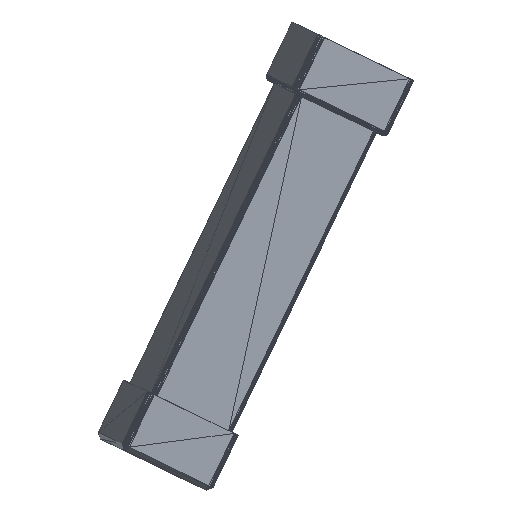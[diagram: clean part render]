
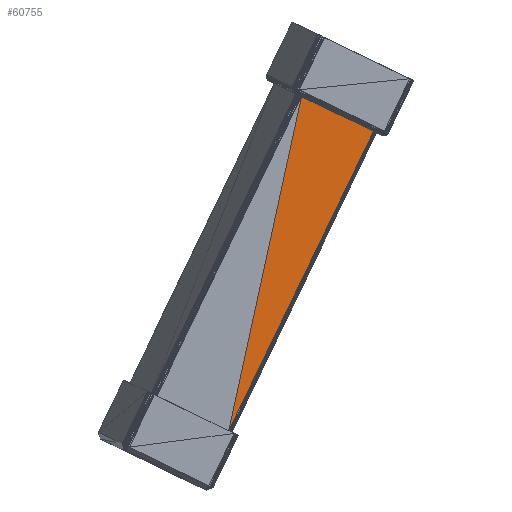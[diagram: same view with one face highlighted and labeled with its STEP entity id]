
A CAD part, top view. The second image highlights one B-rep face of the part: STEP entity #60755.
In plain terms, the highlighted planar face has unit normal (0.258, -0.124, 0.958).
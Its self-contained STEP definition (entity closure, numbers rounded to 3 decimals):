
#12003 = VERTEX_POINT('',#12004);
#12004 = CARTESIAN_POINT('',(33.381,-44.297,
    28.195));
#13298 = PLANE('',#13299);
#13299 = AXIS2_PLACEMENT_3D('',#13300,#13301,#13302);
#13300 = CARTESIAN_POINT('',(2.184,-29.225,
    40.305));
#13301 = DIRECTION('',(-0.435,-0.901,
    0.001));
#13302 = DIRECTION('',(-0.901,0.435,0.));
#14714 = VERTEX_POINT('',#14715);
#14715 = CARTESIAN_POINT('',(4.451,-30.322,
    37.782));
#14741 = EDGE_CURVE('',#14714,#12003,#14742,.T.);
#14742 = SURFACE_CURVE('',#14743,(#14747,#14754),.PCURVE_S1.);
#14743 = LINE('',#14744,#14745);
#14744 = CARTESIAN_POINT('',(4.451,-30.322,
    37.782));
#14745 = VECTOR('',#14746,1.);
#14746 = DIRECTION('',(0.863,-0.417,-0.286));
#14747 = PCURVE('',#13298,#14748);
#14748 = DEFINITIONAL_REPRESENTATION('',(#14749),#14753);
#14749 = LINE('',#14750,#14751);
#14750 = CARTESIAN_POINT('',(-2.519,2.523));
#14751 = VECTOR('',#14752,1.);
#14752 = DIRECTION('',(-0.958,0.286));
#14753 = ( GEOMETRIC_REPRESENTATION_CONTEXT(2) 
PARAMETRIC_REPRESENTATION_CONTEXT() REPRESENTATION_CONTEXT('2D SPACE',''
  ) );
#14754 = PCURVE('',#14755,#14760);
#14755 = PLANE('',#14756);
#14756 = AXIS2_PLACEMENT_3D('',#14757,#14758,#14759);
#14757 = CARTESIAN_POINT('',(-24.87,-164.956,
    28.297));
#14758 = DIRECTION('',(0.258,-0.124,0.958));
#14759 = DIRECTION('',(0.966,0.,-0.26
    ));
#14760 = DEFINITIONAL_REPRESENTATION('',(#14761),#14765);
#14761 = LINE('',#14762,#14763);
#14762 = CARTESIAN_POINT('',(25.85,135.676));
#14763 = VECTOR('',#14764,1.);
#14764 = DIRECTION('',(0.908,-0.42));
#14765 = ( GEOMETRIC_REPRESENTATION_CONTEXT(2) 
PARAMETRIC_REPRESENTATION_CONTEXT() REPRESENTATION_CONTEXT('2D SPACE',''
  ) );
#58893 = VERTEX_POINT('',#58894);
#58894 = CARTESIAN_POINT('',(-24.87,-164.956,
    28.297));
#58908 = PLANE('',#58909);
#58909 = AXIS2_PLACEMENT_3D('',#58910,#58911,#58912);
#58910 = CARTESIAN_POINT('',(-24.603,-165.086,
    28.182));
#58911 = DIRECTION('',(0.325,-0.156,0.933));
#58912 = DIRECTION('',(0.944,0.,-0.329
    ));
#59934 = EDGE_CURVE('',#58893,#12003,#59935,.T.);
#59935 = SURFACE_CURVE('',#59936,(#59940,#59947),.PCURVE_S1.);
#59936 = LINE('',#59937,#59938);
#59937 = CARTESIAN_POINT('',(-24.87,-164.956,
    28.297));
#59938 = VECTOR('',#59939,1.);
#59939 = DIRECTION('',(0.435,0.901,-0.001
    ));
#59940 = PCURVE('',#58908,#59941);
#59941 = DEFINITIONAL_REPRESENTATION('',(#59942),#59946);
#59942 = LINE('',#59943,#59944);
#59943 = CARTESIAN_POINT('',(-0.291,0.131));
#59944 = VECTOR('',#59945,1.);
#59945 = DIRECTION('',(0.411,0.912));
#59946 = ( GEOMETRIC_REPRESENTATION_CONTEXT(2) 
PARAMETRIC_REPRESENTATION_CONTEXT() REPRESENTATION_CONTEXT('2D SPACE',''
  ) );
#59947 = PCURVE('',#14755,#59948);
#59948 = DEFINITIONAL_REPRESENTATION('',(#59949),#59953);
#59949 = LINE('',#59950,#59951);
#59950 = CARTESIAN_POINT('',(0.,0.));
#59951 = VECTOR('',#59952,1.);
#59952 = DIRECTION('',(0.42,0.908));
#59953 = ( GEOMETRIC_REPRESENTATION_CONTEXT(2) 
PARAMETRIC_REPRESENTATION_CONTEXT() REPRESENTATION_CONTEXT('2D SPACE',''
  ) );
#60755 = ADVANCED_FACE('',(#60756),#14755,.T.);
#60756 = FACE_BOUND('',#60757,.T.);
#60757 = EDGE_LOOP('',(#60758,#60759,#60760));
#60758 = ORIENTED_EDGE('',*,*,#59934,.T.);
#60759 = ORIENTED_EDGE('',*,*,#14741,.F.);
#60760 = ORIENTED_EDGE('',*,*,#60761,.F.);
#60761 = EDGE_CURVE('',#58893,#14714,#60762,.T.);
#60762 = SURFACE_CURVE('',#60763,(#60767,#60774),.PCURVE_S1.);
#60763 = LINE('',#60764,#60765);
#60764 = CARTESIAN_POINT('',(-24.87,-164.956,
    28.297));
#60765 = VECTOR('',#60766,1.);
#60766 = DIRECTION('',(0.212,0.975,0.069)
  );
#60767 = PCURVE('',#14755,#60768);
#60768 = DEFINITIONAL_REPRESENTATION('',(#60769),#60773);
#60769 = LINE('',#60770,#60771);
#60770 = CARTESIAN_POINT('',(0.,0.));
#60771 = VECTOR('',#60772,1.);
#60772 = DIRECTION('',(0.187,0.982));
#60773 = ( GEOMETRIC_REPRESENTATION_CONTEXT(2) 
PARAMETRIC_REPRESENTATION_CONTEXT() REPRESENTATION_CONTEXT('2D SPACE',''
  ) );
#60774 = PCURVE('',#60775,#60780);
#60775 = PLANE('',#60776);
#60776 = AXIS2_PLACEMENT_3D('',#60777,#60778,#60779);
#60777 = CARTESIAN_POINT('',(-24.87,-164.956,
    28.297));
#60778 = DIRECTION('',(0.258,-0.124,0.958));
#60779 = DIRECTION('',(0.966,0.,-0.26)
  );
#60780 = DEFINITIONAL_REPRESENTATION('',(#60781),#60785);
#60781 = LINE('',#60782,#60783);
#60782 = CARTESIAN_POINT('',(0.,0.));
#60783 = VECTOR('',#60784,1.);
#60784 = DIRECTION('',(0.187,0.982));
#60785 = ( GEOMETRIC_REPRESENTATION_CONTEXT(2) 
PARAMETRIC_REPRESENTATION_CONTEXT() REPRESENTATION_CONTEXT('2D SPACE',''
  ) );
